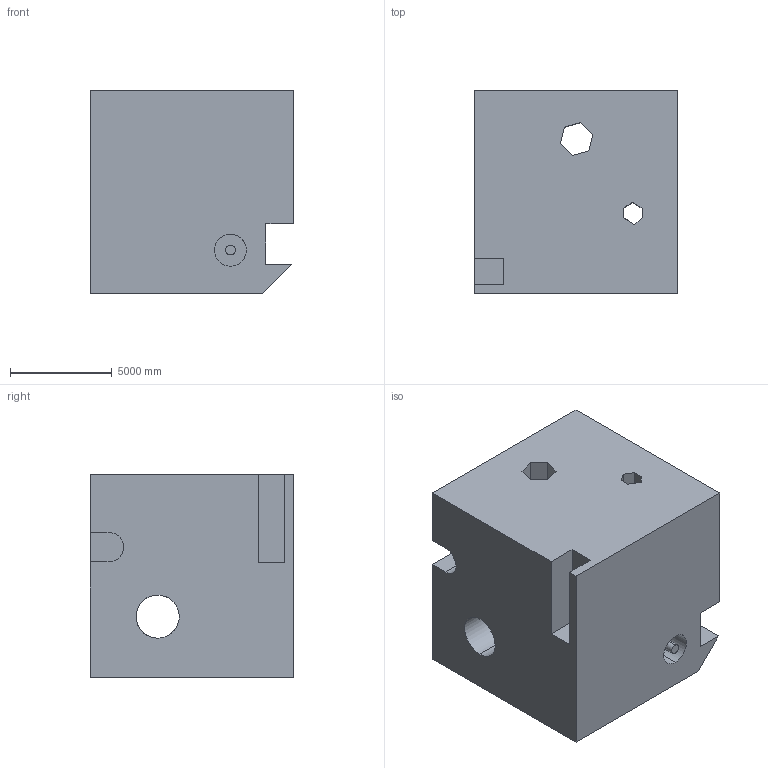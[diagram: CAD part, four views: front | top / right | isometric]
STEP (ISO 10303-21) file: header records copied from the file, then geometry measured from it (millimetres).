
FILE_DESCRIPTION (( 'STEP AP203' ), '1' );
FILE_NAME ('194.STEP', '2022-09-06T15:28:58', ( 'user' ), ( '' ), 'SwSTEP 2.0', 'SolidWorks 2021', '' );
FILE_SCHEMA (( 'CONFIG_CONTROL_DESIGN' ));
Length unit declared in the file: centimetre
Products named in the file (1): 194
Bounding box: 10000 x 10000 x 10000 mm (x, y, z)
Volume: 854898764555.3 mm3; surface area: 864058612.8 mm2
Topology: 1 solids, 1 shells, 62 faces, 189 edges, 126 vertices
Faces by surface type: plane 48, cylinder 14
Entity records: 3004 total; most frequent: CARTESIAN_POINT 1266, ORIENTED_EDGE 378, DIRECTION 307, EDGE_CURVE 189, VECTOR 133, LINE 133, VERTEX_POINT 126, AXIS2_PLACEMENT_3D 87
